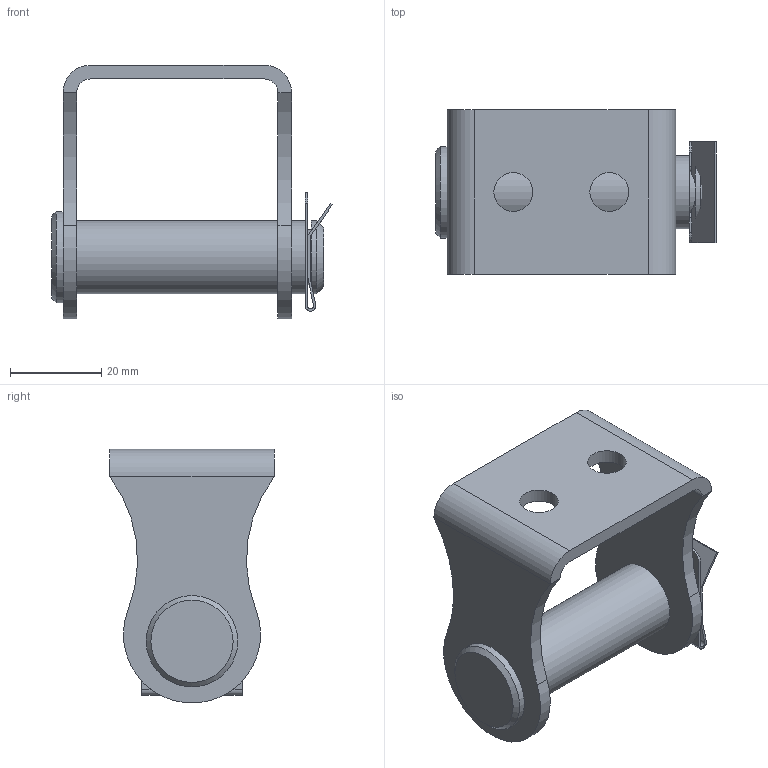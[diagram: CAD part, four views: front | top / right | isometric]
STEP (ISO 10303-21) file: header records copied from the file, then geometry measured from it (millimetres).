
FILE_DESCRIPTION(/* description */ (''),/* implementation_level */ '2;1');
FILE_NAME(/* name */ 'G:\3D-Zeichnungen\Easy-E-line\Beschläge\montiert\Step\EEL900BA50-2MS.stp',/* time_stamp */ '2019-07-17T11:12:38+02:00',/* author */ ('cadneu2'),/* organization */ (''),/* preprocessor_version */ 'ST-DEVELOPER v16.1',/* originating_system */ 'Autodesk Inventor 2016',/* authorisation */ '');
FILE_SCHEMA (('AUTOMOTIVE_DESIGN { 1 0 10303 214 3 1 1 }'));
Length unit declared in the file: millimetre
Products named in the file (4): EEL900BA50U2MS; EEL50-BO-MO; 63791101; EEL900BA50-2MS
Assembly tree (3 placements, depth 2):
  EEL900BA50-2MS
    EEL900BA50U2MS
    EEL50-BO-MO
    63791101
Bounding box: 61.43 x 36 x 55.45 mm (x, y, z)
Volume: 24244.4 mm3; surface area: 14717.6 mm2
Topology: 3 solids, 3 shells, 68 faces, 171 edges, 110 vertices
Faces by surface type: plane 36, cylinder 30, cone 2
Full cylindrical faces by diameter (mm): 8.5 x2, 12 x1, 16 x4, 20 x1
Entity records: 2096 total; most frequent: DIRECTION 373, CARTESIAN_POINT 351, ORIENTED_EDGE 318, EDGE_CURVE 159, AXIS2_PLACEMENT_3D 140, VERTEX_POINT 108, LINE 93, VECTOR 93
